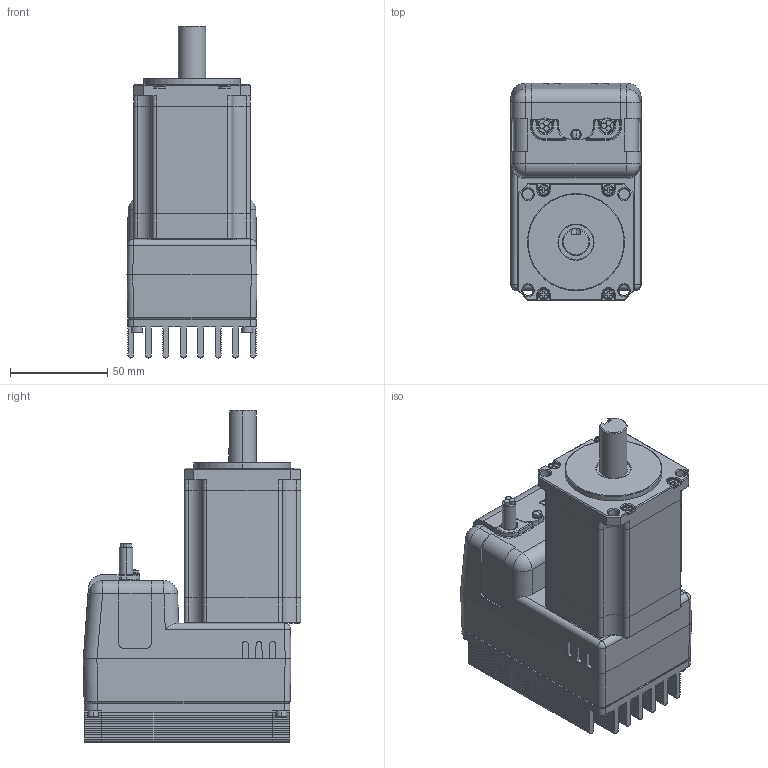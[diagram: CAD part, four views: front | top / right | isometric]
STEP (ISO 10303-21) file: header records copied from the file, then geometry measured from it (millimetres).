
FILE_DESCRIPTION (( 'STEP AP203' ), '1' );
FILE_NAME ('CM2-60A40A.STEP', '2010-06-01T13:41:26', ( 'render' ), ( '' ), 'SwSTEP 2.0', 'SolidWorks 2009', '' );
FILE_SCHEMA (( 'CONFIG_CONTROL_DESIGN' ));
Length unit declared in the file: millimetre
Products named in the file (1): CM2-60A40A
Bounding box: 67 x 112 x 171.1 mm (x, y, z)
Volume: 695782 mm3; surface area: 134949.6 mm2
Topology: 24 solids, 24 shells, 834 faces, 2160 edges, 1382 vertices
Faces by surface type: cylinder 440, plane 297, torus 43, cone 31, sphere 15, bspline 8
Entity records: 25823 total; most frequent: CARTESIAN_POINT 4814, DIRECTION 4647, ORIENTED_EDGE 4308, EDGE_CURVE 2154, AXIS2_PLACEMENT_3D 1747, VERTEX_POINT 1382, LINE 1153, VECTOR 1153
